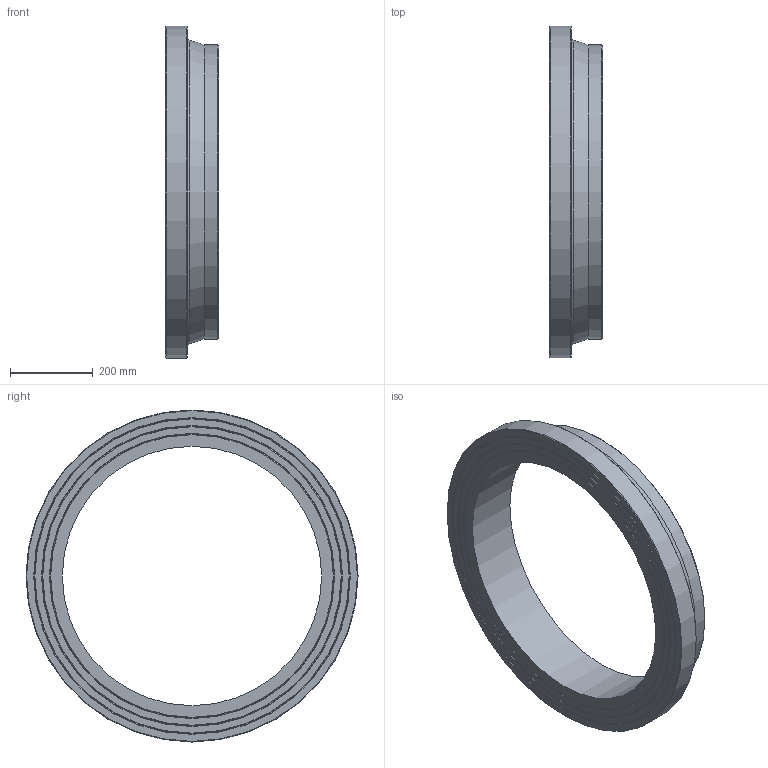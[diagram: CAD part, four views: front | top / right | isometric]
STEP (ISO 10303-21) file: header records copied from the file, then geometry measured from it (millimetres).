
FILE_DESCRIPTION(/* description */ ('Unknown'),/* implementation_level */ '2;1');
FILE_NAME(/* name */ 'CCP710B',/* time_stamp */ '2022-04-05T08:56:16+02:00',/* author */ ('Unknown'),/* organization */ ('Unknown'),/* preprocessor_version */ 'ST-DEVELOPER v18.1',/* originating_system */ 'Solid Edge',/* authorisation */ 'Unknown');
FILE_SCHEMA (('AUTOMOTIVE_DESIGN {1 0 10303 214 3 1 1}'));
Length unit declared in the file: millimetre
Products named in the file (1): CCP710B
Bounding box: 128 x 801 x 801 mm (x, y, z)
Volume: 17538501.2 mm3; surface area: 914279.5 mm2
Topology: 1 solids, 1 shells, 20 faces, 35 edges, 21 vertices
Faces by surface type: cone 10, plane 6, cylinder 3, torus 1
Full cylindrical faces by diameter (mm): 625.8 x1, 710 x1, 801 x1
Entity records: 438 total; most frequent: DIRECTION 82, CARTESIAN_POINT 61, AXIS2_PLACEMENT_3D 41, ORIENTED_EDGE 40, EDGE_LOOP 40, FACE_BOUND 40, EDGE_CURVE 20, VERTEX_POINT 20
